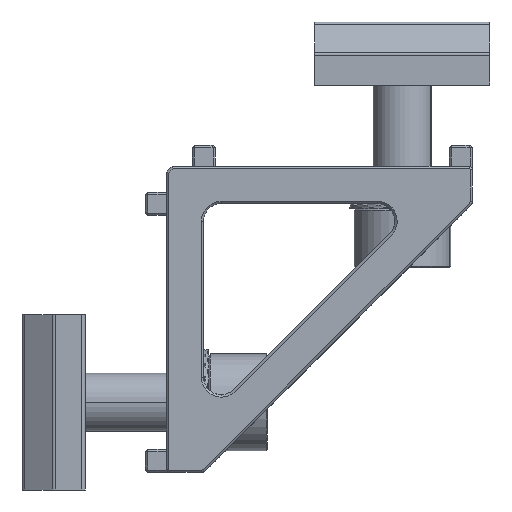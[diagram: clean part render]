
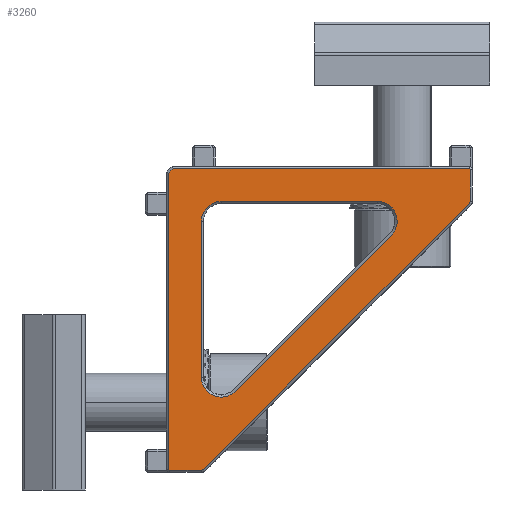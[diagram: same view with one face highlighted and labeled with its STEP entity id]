
A CAD part, front view. The second image highlights one B-rep face of the part: STEP entity #3260.
In plain terms, the highlighted planar face has unit normal (0, -1, 0).
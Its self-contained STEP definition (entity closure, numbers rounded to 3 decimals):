
#234 = CIRCLE ( 'NONE', #8282, 1.7 ) ;
#405 = DIRECTION ( 'NONE',  ( 0., -1., 0. ) ) ;
#564 = CARTESIAN_POINT ( 'NONE',  ( 2., 0., 0. ) ) ;
#694 = VERTEX_POINT ( 'NONE', #1711 ) ;
#719 = CIRCLE ( 'NONE', #8766, 0.3 ) ;
#762 = EDGE_CURVE ( 'NONE', #6569, #694, #8469, .T. ) ;
#843 = DIRECTION ( 'NONE',  ( -1., 0., 0. ) ) ;
#997 = DIRECTION ( 'NONE',  ( 0., 1., 0. ) ) ;
#1070 = EDGE_CURVE ( 'NONE', #13930, #11085, #11193, .T. ) ;
#1086 = VERTEX_POINT ( 'NONE', #3550 ) ;
#1116 = CARTESIAN_POINT ( 'NONE',  ( 0., 0., 0. ) ) ;
#1235 = ORIENTED_EDGE ( 'NONE', *, *, #4201, .F. ) ;
#1333 = CARTESIAN_POINT ( 'NONE',  ( 27.712, 0., -5.005 ) ) ;
#1347 = DIRECTION ( 'NONE',  ( 0., 0., -1. ) ) ;
#1458 = DIRECTION ( 'NONE',  ( -0.707, 0., 0.707 ) ) ;
#1536 = EDGE_CURVE ( 'NONE', #2626, #11095, #8418, .T. ) ;
#1547 = VERTEX_POINT ( 'NONE', #10644 ) ;
#1711 = CARTESIAN_POINT ( 'NONE',  ( 2.083, 0., -27.8 ) ) ;
#1895 = VERTEX_POINT ( 'NONE', #12200 ) ;
#2035 = EDGE_CURVE ( 'NONE', #4764, #11614, #234, .T. ) ;
#2192 = FACE_BOUND ( 'NONE', #4913, .T. ) ;
#2363 = ORIENTED_EDGE ( 'NONE', *, *, #4536, .F. ) ;
#2500 = ORIENTED_EDGE ( 'NONE', *, *, #1070, .F. ) ;
#2507 = AXIS2_PLACEMENT_3D ( 'NONE', #2612, #7003, #11396 ) ;
#2521 = DIRECTION ( 'NONE',  ( 0., -1., 0. ) ) ;
#2612 = CARTESIAN_POINT ( 'NONE',  ( 6.5, 0., -19.853 ) ) ;
#2626 = VERTEX_POINT ( 'NONE', #4975 ) ;
#2762 = ORIENTED_EDGE ( 'NONE', *, *, #9750, .T. ) ;
#2837 = CARTESIAN_POINT ( 'NONE',  ( 27.8, 0., -2.083 ) ) ;
#2936 = DIRECTION ( 'NONE',  ( -1., 0., 0. ) ) ;
#2992 = DIRECTION ( 'NONE',  ( -1., 0., 0. ) ) ;
#3008 = CARTESIAN_POINT ( 'NONE',  ( 4.8, 0., 0. ) ) ;
#3053 = AXIS2_PLACEMENT_3D ( 'NONE', #1116, #5499, #9891 ) ;
#3190 = CARTESIAN_POINT ( 'NONE',  ( 2.383, 0., -2. ) ) ;
#3260 = ADVANCED_FACE ( 'NONE', ( #2192, #6579 ), #10973, .F. ) ;
#3261 = CARTESIAN_POINT ( 'NONE',  ( 27.712, 0., -5.005 ) ) ;
#3550 = CARTESIAN_POINT ( 'NONE',  ( 2., 0., -2.383 ) ) ;
#3860 = LINE ( 'NONE', #8263, #6025 ) ;
#3901 = CARTESIAN_POINT ( 'NONE',  ( 7.702, 0., -21.055 ) ) ;
#3910 = DIRECTION ( 'NONE',  ( 0., 0., -1. ) ) ;
#4076 = ORIENTED_EDGE ( 'NONE', *, *, #1536, .F. ) ;
#4197 = CIRCLE ( 'NONE', #12242, 1.7 ) ;
#4201 = EDGE_CURVE ( 'NONE', #1547, #4764, #8717, .T. ) ;
#4272 = ORIENTED_EDGE ( 'NONE', *, *, #10953, .F. ) ;
#4305 = EDGE_CURVE ( 'NONE', #11614, #13903, #13774, .T. ) ;
#4326 = ORIENTED_EDGE ( 'NONE', *, *, #9896, .F. ) ;
#4536 = EDGE_CURVE ( 'NONE', #13903, #2626, #5281, .T. ) ;
#4645 = CIRCLE ( 'NONE', #12695, 0.3 ) ;
#4764 = VERTEX_POINT ( 'NONE', #7376 ) ;
#4786 = DIRECTION ( 'NONE',  ( 0., 0., -1. ) ) ;
#4867 = EDGE_CURVE ( 'NONE', #7424, #1086, #13056, .T. ) ;
#4913 = EDGE_LOOP ( 'NONE', ( #11900, #4076, #2363, #13639, #13621, #1235, #6295 ) ) ;
#4950 = DIRECTION ( 'NONE',  ( 0., 0., 1. ) ) ;
#4975 = CARTESIAN_POINT ( 'NONE',  ( 19.853, 0., -4.8 ) ) ;
#5087 = VECTOR ( 'NONE', #1458, 1000. ) ;
#5281 = CIRCLE ( 'NONE', #13324, 1.7 ) ;
#5289 = CARTESIAN_POINT ( 'NONE',  ( 4.8, 0., -6.5 ) ) ;
#5344 = VERTEX_POINT ( 'NONE', #13163 ) ;
#5381 = DIRECTION ( 'NONE',  ( -1., 0., 0. ) ) ;
#5499 = DIRECTION ( 'NONE',  ( 0., 1., 0. ) ) ;
#5588 = VECTOR ( 'NONE', #7231, 1000. ) ;
#5720 = DIRECTION ( 'NONE',  ( -0.707, 0., -0.707 ) ) ;
#5767 = EDGE_CURVE ( 'NONE', #11085, #6569, #719, .T. ) ;
#6025 = VECTOR ( 'NONE', #12654, 1000. ) ;
#6295 = ORIENTED_EDGE ( 'NONE', *, *, #7914, .F. ) ;
#6307 = CARTESIAN_POINT ( 'NONE',  ( 27.5, 0., -4.793 ) ) ;
#6569 = VERTEX_POINT ( 'NONE', #11239 ) ;
#6579 = FACE_OUTER_BOUND ( 'NONE', #13013, .T. ) ;
#6618 = EDGE_CURVE ( 'NONE', #11095, #13838, #4197, .T. ) ;
#6814 = LINE ( 'NONE', #11206, #9926 ) ;
#6915 = DIRECTION ( 'NONE',  ( 0., 0., -1. ) ) ;
#6927 = LINE ( 'NONE', #11321, #5087 ) ;
#7003 = DIRECTION ( 'NONE',  ( 0., -1., 0. ) ) ;
#7109 = LINE ( 'NONE', #564, #9942 ) ;
#7231 = DIRECTION ( 'NONE',  ( -0.707, 0., 0.707 ) ) ;
#7237 = ORIENTED_EDGE ( 'NONE', *, *, #762, .F. ) ;
#7376 = CARTESIAN_POINT ( 'NONE',  ( 6.5, 0., -21.553 ) ) ;
#7402 = DIRECTION ( 'NONE',  ( 0., 0., -1. ) ) ;
#7424 = VERTEX_POINT ( 'NONE', #14045 ) ;
#7466 = ORIENTED_EDGE ( 'NONE', *, *, #9609, .F. ) ;
#7468 = ORIENTED_EDGE ( 'NONE', *, *, #5767, .F. ) ;
#7583 = DIRECTION ( 'NONE',  ( -0.707, 0., -0.707 ) ) ;
#7585 = CARTESIAN_POINT ( 'NONE',  ( 21.055, 0., -7.702 ) ) ;
#7674 = VERTEX_POINT ( 'NONE', #9133 ) ;
#7914 = EDGE_CURVE ( 'NONE', #13838, #1547, #12878, .T. ) ;
#8263 = CARTESIAN_POINT ( 'NONE',  ( 0., 0., -2. ) ) ;
#8282 = AXIS2_PLACEMENT_3D ( 'NONE', #9388, #13783, #3910 ) ;
#8301 = DIRECTION ( 'NONE',  ( 0.707, 0., 0.707 ) ) ;
#8418 = LINE ( 'NONE', #12809, #10004 ) ;
#8469 = LINE ( 'NONE', #12865, #11292 ) ;
#8717 = CIRCLE ( 'NONE', #2507, 1.7 ) ;
#8766 = AXIS2_PLACEMENT_3D ( 'NONE', #10850, #997, #5381 ) ;
#8912 = ORIENTED_EDGE ( 'NONE', *, *, #4867, .T. ) ;
#9072 = VECTOR ( 'NONE', #7583, 1000. ) ;
#9133 = CARTESIAN_POINT ( 'NONE',  ( 27.8, 0., -4.793 ) ) ;
#9388 = CARTESIAN_POINT ( 'NONE',  ( 6.5, 0., -19.853 ) ) ;
#9597 = CARTESIAN_POINT ( 'NONE',  ( 7.702, 0., -21.055 ) ) ;
#9609 = EDGE_CURVE ( 'NONE', #14171, #7674, #6814, .T. ) ;
#9750 = EDGE_CURVE ( 'NONE', #5344, #7424, #3860, .T. ) ;
#9869 = VECTOR ( 'NONE', #8301, 1000. ) ;
#9891 = DIRECTION ( 'NONE',  ( 0., 0., 1. ) ) ;
#9896 = EDGE_CURVE ( 'NONE', #7674, #13930, #4645, .T. ) ;
#9926 = VECTOR ( 'NONE', #1347, 1000. ) ;
#9942 = VECTOR ( 'NONE', #4950, 1000. ) ;
#10004 = VECTOR ( 'NONE', #2936, 1000. ) ;
#10138 = ORIENTED_EDGE ( 'NONE', *, *, #11547, .T. ) ;
#10269 = CARTESIAN_POINT ( 'NONE',  ( 19.853, 0., -6.5 ) ) ;
#10461 = ORIENTED_EDGE ( 'NONE', *, *, #14118, .F. ) ;
#10644 = CARTESIAN_POINT ( 'NONE',  ( 4.8, 0., -19.853 ) ) ;
#10697 = DIRECTION ( 'NONE',  ( 0., 1., 0. ) ) ;
#10699 = CARTESIAN_POINT ( 'NONE',  ( 6.5, 0., -4.8 ) ) ;
#10723 = VECTOR ( 'NONE', #7402, 1000. ) ;
#10850 = CARTESIAN_POINT ( 'NONE',  ( 4.793, 0., -27.5 ) ) ;
#10953 = EDGE_CURVE ( 'NONE', #1895, #1086, #7109, .T. ) ;
#10973 = PLANE ( 'NONE',  #3053 ) ;
#11085 = VERTEX_POINT ( 'NONE', #13946 ) ;
#11095 = VERTEX_POINT ( 'NONE', #10699 ) ;
#11193 = LINE ( 'NONE', #1333, #12902 ) ;
#11206 = CARTESIAN_POINT ( 'NONE',  ( 27.8, 0., 0. ) ) ;
#11239 = CARTESIAN_POINT ( 'NONE',  ( 4.793, 0., -27.8 ) ) ;
#11292 = VECTOR ( 'NONE', #2992, 1000. ) ;
#11321 = CARTESIAN_POINT ( 'NONE',  ( 2.083, 0., -27.8 ) ) ;
#11396 = DIRECTION ( 'NONE',  ( 0., 0., -1. ) ) ;
#11547 = EDGE_CURVE ( 'NONE', #14171, #5344, #12705, .T. ) ;
#11614 = VERTEX_POINT ( 'NONE', #9597 ) ;
#11676 = CARTESIAN_POINT ( 'NONE',  ( 27.8, 0., -2.083 ) ) ;
#11900 = ORIENTED_EDGE ( 'NONE', *, *, #6618, .F. ) ;
#12200 = CARTESIAN_POINT ( 'NONE',  ( 2., 0., -27.717 ) ) ;
#12242 = AXIS2_PLACEMENT_3D ( 'NONE', #12385, #2521, #6915 ) ;
#12385 = CARTESIAN_POINT ( 'NONE',  ( 6.5, 0., -6.5 ) ) ;
#12654 = DIRECTION ( 'NONE',  ( -1., 0., 0. ) ) ;
#12695 = AXIS2_PLACEMENT_3D ( 'NONE', #6307, #10697, #843 ) ;
#12705 = LINE ( 'NONE', #2837, #5588 ) ;
#12809 = CARTESIAN_POINT ( 'NONE',  ( 0., 0., -4.8 ) ) ;
#12865 = CARTESIAN_POINT ( 'NONE',  ( 0., 0., -27.8 ) ) ;
#12878 = LINE ( 'NONE', #3008, #10723 ) ;
#12902 = VECTOR ( 'NONE', #5720, 1000. ) ;
#13013 = EDGE_LOOP ( 'NONE', ( #8912, #4272, #10461, #7237, #7468, #2500, #4326, #7466, #10138, #2762 ) ) ;
#13056 = LINE ( 'NONE', #3190, #9072 ) ;
#13163 = CARTESIAN_POINT ( 'NONE',  ( 27.717, 0., -2. ) ) ;
#13324 = AXIS2_PLACEMENT_3D ( 'NONE', #10269, #405, #4786 ) ;
#13621 = ORIENTED_EDGE ( 'NONE', *, *, #2035, .F. ) ;
#13639 = ORIENTED_EDGE ( 'NONE', *, *, #4305, .F. ) ;
#13774 = LINE ( 'NONE', #3901, #9869 ) ;
#13783 = DIRECTION ( 'NONE',  ( 0., -1., 0. ) ) ;
#13838 = VERTEX_POINT ( 'NONE', #5289 ) ;
#13903 = VERTEX_POINT ( 'NONE', #7585 ) ;
#13930 = VERTEX_POINT ( 'NONE', #3261 ) ;
#13946 = CARTESIAN_POINT ( 'NONE',  ( 5.005, 0., -27.712 ) ) ;
#14045 = CARTESIAN_POINT ( 'NONE',  ( 2.383, 0., -2. ) ) ;
#14118 = EDGE_CURVE ( 'NONE', #694, #1895, #6927, .T. ) ;
#14171 = VERTEX_POINT ( 'NONE', #11676 ) ;
